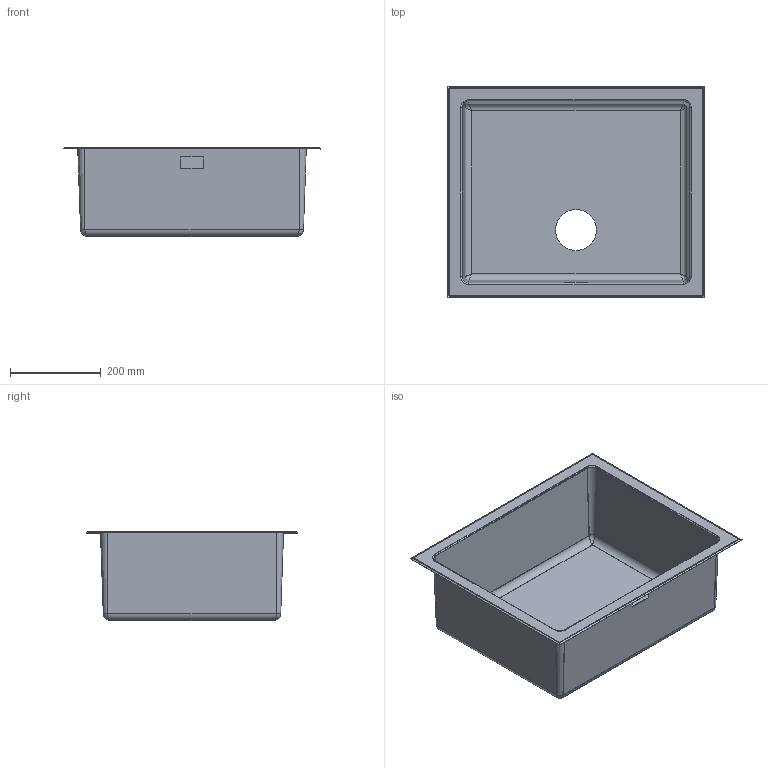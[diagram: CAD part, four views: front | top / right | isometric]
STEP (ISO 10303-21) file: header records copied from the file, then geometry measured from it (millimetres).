
FILE_DESCRIPTION(('CATIA V5 STEP Exchange'),'2;1');
FILE_NAME('C:\Users\linop\Desktop\VQR50.stp','2018-05-31T06:30:50+00:00',('none'),('none'),'CATIA Version 5-6 Release 2014','CATIA V5 STEP AP203','none');
FILE_SCHEMA(('CONFIG_CONTROL_DESIGN'));
Length unit declared in the file: millimetre
Products named in the file (1): VQR50
Bounding box: 567.35 x 466.14 x 195.9 mm (x, y, z)
Volume: 518934.8 mm3; surface area: 1155531.9 mm2
Topology: 1 solids, 1 shells, 118 faces, 270 edges, 156 vertices
Faces by surface type: plane 46, bspline 46, cylinder 26
Entity records: 7495 total; most frequent: CARTESIAN_POINT 5239, ORIENTED_EDGE 540, DIRECTION 280, EDGE_CURVE 270, VERTEX_POINT 156, B_SPLINE_CURVE_WITH_KNOTS 132, VECTOR 124, EDGE_LOOP 124
